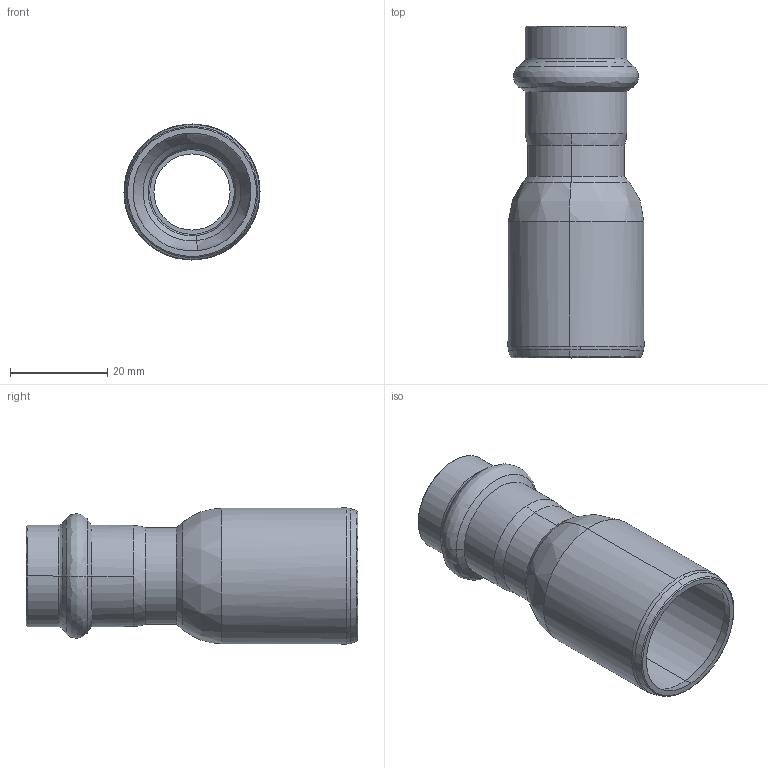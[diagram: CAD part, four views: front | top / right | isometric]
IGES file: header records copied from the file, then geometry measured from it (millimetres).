
Start section: Elysium IGES Interface
Global section: file name: C:\3d modellen sudo\C-Pr VP\SP8243V\8243VW2818.igs; native system: CoCreate Modeling 17.00A  17-Jun-2010; preprocessor: CoCreate IGES_3D V2.2; author: Unknown; organization: Unknown; date: 20130305.092514; units: millimetre
Bounding box: 28 x 68.3 x 28 mm (x, y, z)
Volume: 7418.7 mm3; surface area: 10479.3 mm2
Topology: 1 solids, 1 shells, 62 faces, 136 edges, 78 vertices
Faces by surface type: bspline 62
